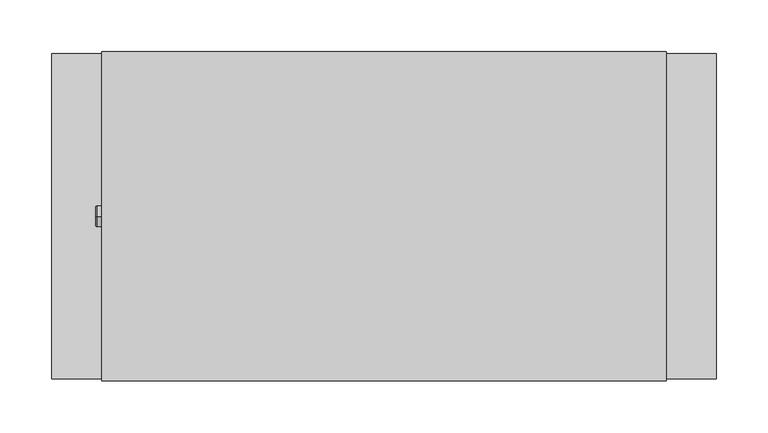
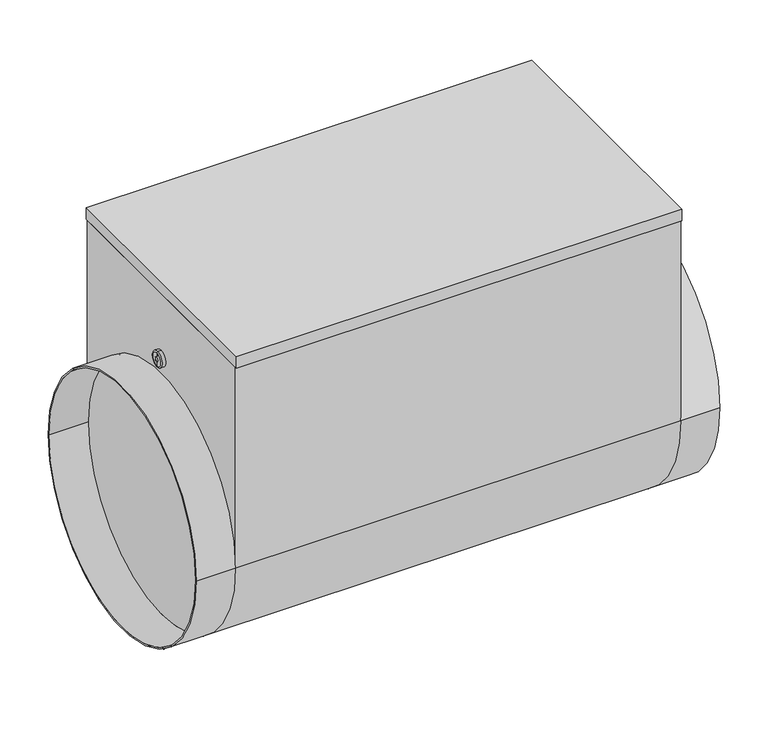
"""IFC4 building model written with IfcOpenShell, lengths in millimetres: proxy geometry, СВ_ВоздухонагревательЭлектрический_КанальныйКруглый_DN100-315_SKH-E : SKH-E-315/18."""

from ifc_helpers import new_model, si_unit, point, frame, origin, place, context, project, spatial, polyline, circle_curve, ellipse_curve, trimmed, outline, extrude, source, transform, mapped, element, save
from ifc_brep_helpers import plane_surface, cylinder_surface, revolved_surface, advanced_brep


def mechanical_equipment_276262f1(model_context):
    return source(origin(), model_context, "Body", "SolidModel", [
        extrude(outline(polyline([(272.5, -159.0), (-272.5, -159.0), (-272.5, 159.0), (272.5, 159.0), (272.5, -159.0)])), frame((0.0, 0.0, 260.0), z_axis=(0.0, 0.0, 1.0), x_axis=(1.0, 0.0, 0.0)), (0.0, 0.0, 1.0), 15.0),
        advanced_brep(
        [(-320.5, -157.0, 0.0), (-320.5, 157.0, 0.0), (-320.5, -155.0, 0.0), (-320.5, 155.0, 0.0), (-272.5, 155.0, 0.0), (-272.5, -155.0, 0.0), (-272.5, 157.0, 0.0), (-272.5, -157.0, 0.0), (272.5, -155.0, 0.0), (272.5, 155.0, 0.0), (272.5, -157.0, 260.0), (272.5, -157.0, 0.0), (272.5, 157.0, 0.0), (272.5, 157.0, 260.0), (-272.5, -157.0, 260.0), (-272.5, 157.0, 260.0), (320.5, -157.0, 0.0), (320.5, 157.0, 0.0), (320.5, -155.0, 0.0), (320.5, 155.0, 0.0)],
        [
            (0, 1, circle_curve(frame((-320.5, 0.0, 0.0), z_axis=(-1.0, 0.0, 0.0), x_axis=(0.0, 1.0, 0.0)), 157.0)),
            (1, 0, circle_curve(frame((-320.5, 0.0, 0.0), z_axis=(-1.0, 0.0, 0.0), x_axis=(0.0, 1.0, 0.0)), 157.0)),
            (2, 3, circle_curve(frame((-320.5, 0.0, 0.0), z_axis=(1.0, 0.0, 0.0), x_axis=(0.0, 1.0, 0.0)), 155.0)),
            (3, 2, circle_curve(frame((-320.5, 0.0, 0.0), z_axis=(1.0, 0.0, 0.0), x_axis=(0.0, 1.0, 0.0)), 155.0)),
            (3, 4),
            (4, 5, circle_curve(frame((-272.5, 0.0, 0.0), z_axis=(1.0, 0.0, 0.0), x_axis=(0.0, 1.0, 0.0)), 155.0)),
            (5, 2),
            (5, 4, circle_curve(frame((-272.5, 0.0, 0.0), z_axis=(1.0, 0.0, 0.0), x_axis=(0.0, 1.0, 0.0)), 155.0)),
            (1, 6),
            (6, 7, circle_curve(frame((-272.5, 0.0, 0.0), z_axis=(-1.0, 0.0, 0.0), x_axis=(0.0, 1.0, 0.0)), 157.0)),
            (7, 0),
            (7, 6, circle_curve(frame((-272.5, 0.0, 0.0), z_axis=(-1.0, 0.0, 0.0), x_axis=(0.0, 1.0, 0.0)), 157.0)),
            (8, 9, circle_curve(frame((272.5, 0.0, 0.0), z_axis=(1.0, 0.0, 0.0), x_axis=(0.0, 1.0, 0.0)), 155.0)),
            (9, 8, circle_curve(frame((272.5, 0.0, 0.0), z_axis=(1.0, 0.0, 0.0), x_axis=(0.0, 1.0, 0.0)), 155.0)),
            (10, 11),
            (11, 12, circle_curve(frame((272.5, 0.0, 0.0), z_axis=(-1.0, 0.0, 0.0), x_axis=(0.0, 1.0, 0.0)), 157.0)),
            (12, 13),
            (13, 10),
            (7, 14),
            (14, 15),
            (15, 6),
            (6, 12),
            (12, 11, circle_curve(frame((272.5, 0.0, 0.0), z_axis=(-1.0, 0.0, 0.0), x_axis=(0.0, 1.0, 0.0)), 157.0)),
            (11, 7),
            (16, 17, circle_curve(frame((320.5, 0.0, 0.0), z_axis=(1.0, 0.0, 0.0), x_axis=(0.0, 1.0, 0.0)), 157.0)),
            (17, 16, circle_curve(frame((320.5, 0.0, 0.0), z_axis=(1.0, 0.0, 0.0), x_axis=(0.0, 1.0, 0.0)), 157.0)),
            (18, 19, circle_curve(frame((320.5, 0.0, 0.0), z_axis=(-1.0, 0.0, 0.0), x_axis=(0.0, 1.0, 0.0)), 155.0)),
            (19, 18, circle_curve(frame((320.5, 0.0, 0.0), z_axis=(-1.0, 0.0, 0.0), x_axis=(0.0, 1.0, 0.0)), 155.0)),
            (18, 8),
            (9, 19),
            (16, 11),
            (12, 17),
            (10, 14),
            (15, 13),
        ],
        [
            plane_surface(frame((-320.5, 155.0, 0.0), z_axis=(-1.0, 0.0, 0.0), x_axis=(0.0, 0.0, 1.0))),
            revolved_surface(polyline([(-320.5, 155.0, 0.0), (-272.5, 155.0, 0.0)]), (-320.5, 0.0, 0.0), (-1.0, 0.0, 0.0)),
            cylinder_surface(frame((0.0, 0.0, 0.0), z_axis=(1.0, 0.0, 0.0), x_axis=(0.0, 1.0, 0.0)), 157.0),
            plane_surface(frame((272.5, 157.0, 0.0), z_axis=(1.0, 0.0, 0.0), x_axis=(0.0, -1.0, 0.0))),
            plane_surface(frame((-272.5, 157.0, 0.0), z_axis=(-1.0, 0.0, 0.0), x_axis=(0.0, 1.0, 0.0))),
            cylinder_surface(frame((-272.5, 0.0, 0.0), z_axis=(1.0, 0.0, 0.0), x_axis=(0.0, 1.0, 0.0)), 157.0),
            plane_surface(frame((320.5, 155.0, 0.0), z_axis=(1.0, 0.0, 0.0), x_axis=(0.0, 0.0, -1.0))),
            revolved_surface(polyline([(272.5, 155.0, 0.0), (320.5, 155.0, 0.0)]), (272.5, 0.0, 0.0), (-1.0, 0.0, 0.0)),
            plane_surface(frame((-272.5, -157.0, 260.0), z_axis=(0.0, -1.0, 0.0), x_axis=(-1.0, 0.0, 0.0))),
            plane_surface(frame((-272.5, 157.0, 260.0), z_axis=(0.0, 1.0, 0.0), x_axis=(1.0, 0.0, 0.0))),
            plane_surface(frame((272.5, -157.0, 260.0), z_axis=(0.0, 0.0, 1.0), x_axis=(0.0, 1.0, 0.0))),
        ],
        [
            (0, [[1, 2], [3, 4]]),
            (1, [[-4, 5, 6, 7]]),
            (1, [[-3, -7, 8, -5]]),
            (2, [[-2, 9, 10, 11]]),
            (2, [[-1, -11, 12, -9]]),
            (3, [[13, 14]]),
            (3, [[15, 16, 17, 18]]),
            (4, [[-8, -6]]),
            (4, [[19, 20, 21, -12]]),
            (5, [[-10, 22, 23, 24]]),
            (6, [[25, 26], [27, 28]]),
            (7, [[-27, 29, -14, 30]]),
            (7, [[-28, -30, -13, -29]]),
            (2, [[-25, 31, -23, 32]]),
            (2, [[-26, -32, -16, -31]]),
            (8, [[33, -19, -24, -15]]),
            (9, [[-17, -22, -21, 34]]),
            (10, [[-33, -18, -34, -20]]),
        ],
    ),
        advanced_brep(
        [(-276.7840134, 0.0, 167.0), (-276.7840134, 0.0, 187.0), (-272.5, 0.0, 187.0), (-272.5, 0.0, 167.0), (-278.2459771, 0.0, 168.4619637), (-278.2459771, 0.0, 185.5380363), (-278.2459771, 0.0, 173.8948071), (-278.2459771, 0.0, 180.1051929), (-275.9138357, 0.0, 173.8948071), (-275.9138357, 0.0, 180.1051929), (-275.9138357, 0.0, 177.0), (-272.5, 0.0, 177.0)],
        [
            (0, 1, circle_curve(frame((-276.7840134, 0.0, 177.0), z_axis=(1.0, 0.0, 0.0), x_axis=(0.0, 0.0, 1.0)), 10.0)),
            (1, 2),
            (2, 3, circle_curve(frame((-272.5, 0.0, 177.0), z_axis=(-1.0, 0.0, 0.0), x_axis=(0.0, 0.0, 1.0)), 10.0)),
            (3, 0),
            (1, 0, circle_curve(frame((-276.7840134, 0.0, 177.0), z_axis=(1.0, 0.0, 0.0), x_axis=(0.0, 0.0, 1.0)), 10.0)),
            (3, 2, circle_curve(frame((-272.5, 0.0, 177.0), z_axis=(-1.0, 0.0, 0.0), x_axis=(0.0, 0.0, 1.0)), 10.0)),
            (4, 5, circle_curve(frame((-278.2459771, 0.0, 177.0), z_axis=(1.0, 0.0, 0.0), x_axis=(0.0, 0.0, 1.0)), 8.5380363)),
            (5, 1, circle_curve(frame((-276.7840134, 0.0, 185.5380363), z_axis=(0.0, 1.0, 0.0), x_axis=(1.0, 0.0, 0.0)), 1.4619637)),
            (0, 4, circle_curve(frame((-276.7840134, 0.0, 168.4619637), z_axis=(0.0, 1.0, 0.0), x_axis=(1.0, 0.0, 0.0)), 1.4619637)),
            (5, 4, circle_curve(frame((-278.2459771, 0.0, 177.0), z_axis=(1.0, 0.0, 0.0), x_axis=(0.0, 0.0, 1.0)), 8.5380363)),
            (6, 7, circle_curve(frame((-278.2459771, 0.0, 177.0), z_axis=(1.0, 0.0, 0.0), x_axis=(0.0, 0.0, 1.0)), 3.1051929)),
            (7, 5),
            (4, 6),
            (7, 6, circle_curve(frame((-278.2459771, 0.0, 177.0), z_axis=(1.0, 0.0, 0.0), x_axis=(0.0, 0.0, 1.0)), 3.1051929)),
            (8, 9, circle_curve(frame((-275.9138357, 0.0, 177.0), z_axis=(1.0, 0.0, 0.0), x_axis=(0.0, 0.0, 1.0)), 3.1051929)),
            (9, 7),
            (6, 8),
            (9, 8, circle_curve(frame((-275.9138357, 0.0, 177.0), z_axis=(1.0, 0.0, 0.0), x_axis=(0.0, 0.0, 1.0)), 3.1051929)),
            (10, 9),
            (8, 10),
            (2, 11),
            (11, 3),
        ],
        [
            cylinder_surface(frame((-308.1635229, 0.0, 177.0), z_axis=(-1.0, 0.0, 0.0), x_axis=(0.0, 0.0, 1.0)), 10.0),
            revolved_surface(trimmed(ellipse_curve(frame((-276.7840134, 0.0, 185.5380363), z_axis=(0.0, -1.0, 0.0), x_axis=(1.0, 0.0, 0.0)), 1.4619637, 1.4619637), [point((-276.7840134, 0.0, 187.0))], [point((-278.2459771, 0.0, 185.5380363))], True, "CARTESIAN"), (-308.1635229, 0.0, 177.0), (-1.0, 0.0, 0.0)),
            plane_surface(frame((-278.2459771, 0.0, 177.0), z_axis=(-1.0, 0.0, 0.0), x_axis=(0.0, 0.0, 1.0))),
            revolved_surface(polyline([(-278.2459771, 0.0, 180.1051929), (-275.9138357, 0.0, 180.1051929)]), (-308.1635229, 0.0, 177.0), (-1.0, 0.0, 0.0)),
            plane_surface(frame((-275.9138357, 0.0, 177.0), z_axis=(-1.0, 0.0, 0.0), x_axis=(0.0, 0.0, 1.0))),
            plane_surface(frame((-272.5, 0.0, 177.0), z_axis=(1.0, 0.0, 0.0), x_axis=(0.0, 0.0, 1.0))),
        ],
        [
            (0, [[1, 2, 3, 4]]),
            (0, [[5, -4, 6, -2]]),
            (1, [[7, 8, -1, 9]]),
            (1, [[10, -9, -5, -8]]),
            (2, [[11, 12, -7, 13]]),
            (2, [[14, -13, -10, -12]]),
            (3, [[15, 16, -11, 17]]),
            (3, [[18, -17, -14, -16]]),
            (4, [[19, -15, 20]]),
            (4, [[-20, -18, -19]]),
            (5, [[-3, 21, 22]]),
            (5, [[-6, -22, -21]]),
        ],
    ),
    ])


if __name__ == "__main__":
    model = new_model("IFC4")
    model_context = context("Model", 3, world=origin())
    ifc_project = project(units=[si_unit("LENGTHUNIT", "METRE", prefix="MILLI")], contexts=[model_context])
    site = spatial("IfcSite", under=ifc_project)
    building = spatial("IfcBuilding", under=site)
    placement = place(None, origin())
    mechanical_equipment_shape = mechanical_equipment_276262f1(model_context)
    element("IfcBuildingElementProxy", 1, Name="СВ_ВоздухонагревательЭлектрический_КанальныйКруглый_DN100-315_SKH-E : SKH-E-315/18", ObjectType="СВ_ВоздухонагревательЭлектрический_КанальныйКруглый_DN100-315_SKH-E : SKH-E-315/18", at=placement, inside=building, context=model_context, shape_type="MappedRepresentation", body=[
        mapped(mechanical_equipment_shape, transform((0.0, 0.0, 0.0), x_axis=(1.0, 0.0, 0.0), y_axis=(0.0, 1.0, 0.0), z_axis=(0.0, 0.0, 1.0))),
    ])
    save(model, "model.ifc")
